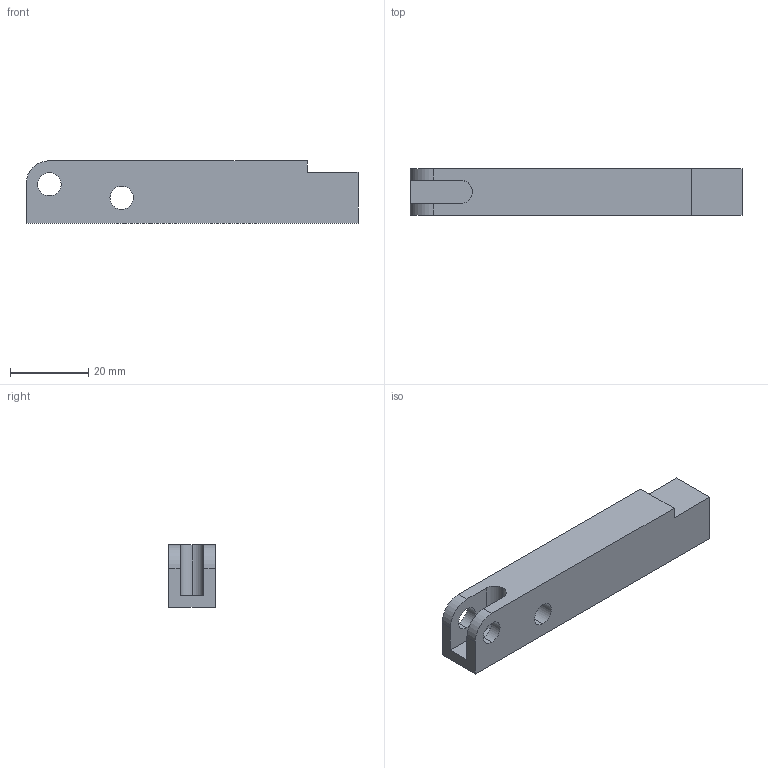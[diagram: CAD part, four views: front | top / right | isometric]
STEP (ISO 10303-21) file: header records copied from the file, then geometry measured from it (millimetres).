
FILE_DESCRIPTION (( 'STEP AP203' ), '1' );
FILE_NAME ('4193 352.STEP', '2017-11-29T09:50:17', ( '' ), ( '' ), 'SwSTEP 2.0', 'SolidWorks 2015', '' );
FILE_SCHEMA (( 'CONFIG_CONTROL_DESIGN' ));
Length unit declared in the file: millimetre
Products named in the file (1): 4193 352
Bounding box: 85 x 12 x 16 mm (x, y, z)
Volume: 14098.9 mm3; surface area: 5571.8 mm2
Topology: 1 solids, 1 shells, 21 faces, 57 edges, 38 vertices
Faces by surface type: plane 11, cylinder 10
Entity records: 760 total; most frequent: DIRECTION 121, CARTESIAN_POINT 117, ORIENTED_EDGE 114, EDGE_CURVE 57, AXIS2_PLACEMENT_3D 42, VERTEX_POINT 38, VECTOR 37, LINE 37
